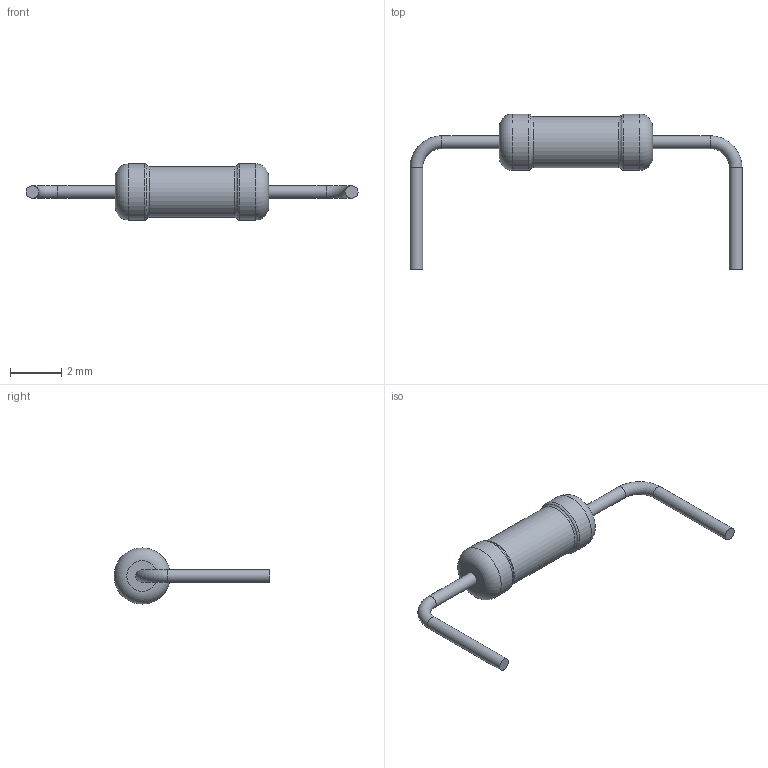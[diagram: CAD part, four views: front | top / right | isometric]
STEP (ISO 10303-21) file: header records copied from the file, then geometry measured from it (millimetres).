
FILE_DESCRIPTION(('STEP AP203'), '1');
FILE_NAME('ﾑ2-29ﾂ-0,125ﾀﾈ(1)', '', ('UNSPECIFIED'), ('UNSPECIFIED'), 'ASCON STEP Converter 1.6', 'ASCON Math Kernel', '');
FILE_SCHEMA(('CONFIG_CONTROL_DESIGN'));
Length unit declared in the file: millimetre
Bounding box: 13 x 6.1 x 2.2 mm (x, y, z)
Volume: 22.9 mm3; surface area: 68.7 mm2
Topology: 1 solids, 1 shells, 19 faces, 33 edges, 18 vertices
Faces by surface type: torus 8, cylinder 7, plane 4
Full cylindrical faces by diameter (mm): 0.5 x4, 2 x1, 2.2 x2
Entity records: 570 total; most frequent: DIRECTION 76, CARTESIAN_POINT 56, AXIS2_PLACEMENT_3D 38, EDGE_LOOP 36, ORIENTED_EDGE 36, FACE_OUTER_BOUND 30, COLOUR_RGB 20, FILL_AREA_STYLE_COLOUR 20
